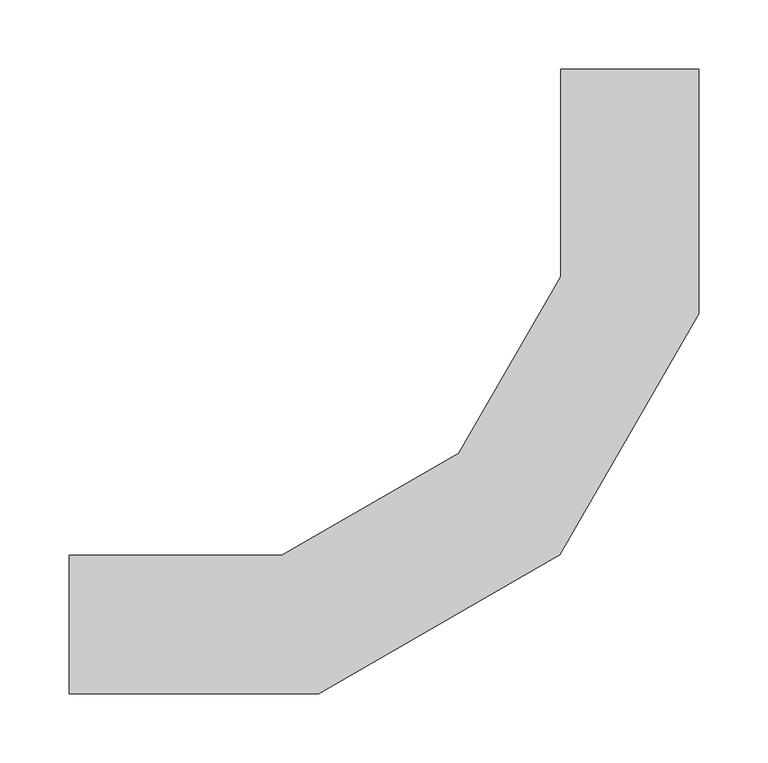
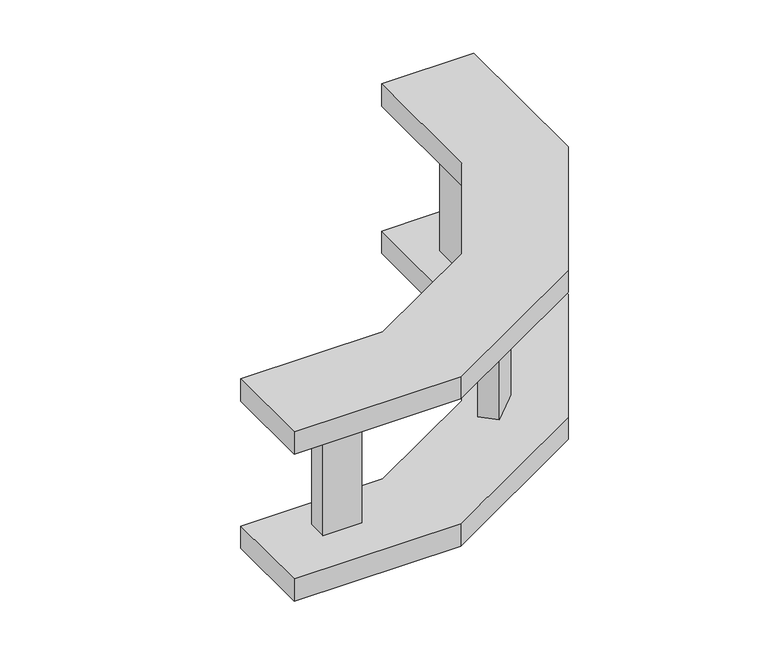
"""IFC4 building model written with IfcOpenShell, lengths in millimetres: cable carrier fitting geometry, Legrand_CableLadder_Swifts_Topaz_OutsideRiser-13 : Hot Dip Galvanised (after manufacture)."""

from ifc_helpers import new_model, si_unit, frame, origin, place, context, project, spatial, polyline, outline, extrude, source, transform, mapped, element, save


def cable_carrier_fitting_f09c606a(model_context):
    return source(origin(), model_context, "Body", "SweptSolid", [
        extrude(outline(polyline([(-123.621014, 93.9225292), (-93.9225292, 123.621014), (-79.0732868, 108.7717716), (-108.7717716, 79.0732868), (-123.621014, 93.9225292)])), frame((0.0, 0.0, -71.5), z_axis=(0.0, 0.0, 1.0), x_axis=(1.0, 0.0, 0.0)), (0.0, 0.0, 1.0), 143.0),
        extrude(outline(polyline([(-346.5, 19.0), (-304.5, 19.0), (-304.5, -2.0), (-346.5, -2.0), (-346.5, 19.0)])), frame((0.0, 0.0, -71.5), z_axis=(0.0, 0.0, 1.0), x_axis=(1.0, 0.0, 0.0)), (0.0, 0.0, 1.0), 143.0),
        extrude(outline(polyline([(-19.0, 304.5), (-19.0, 346.5), (2.0, 346.5), (2.0, 304.5), (-19.0, 304.5)])), frame((0.0, 0.0, -71.5), z_axis=(0.0, 0.0, 1.0), x_axis=(1.0, 0.0, 0.0)), (0.0, 0.0, 1.0), 143.0),
        extrude(outline(polyline([(-224.8850782, -50.0), (-405.5, -50.0), (-405.5, 50.0), (-251.6799975, 50.0), (-123.8200025, 123.8200025), (-50.0, 251.6799975), (-50.0, 401.7), (50.0, 401.7), (50.0, 224.8850782), (-50.6149218, 50.6149218), (-224.8850782, -50.0)])), frame((0.0, 0.0, -97.0), z_axis=(0.0, 0.0, 1.0), x_axis=(1.0, 0.0, 0.0)), (0.0, 0.0, 1.0), 25.5),
        extrude(outline(polyline([(-405.5, -50.0), (-405.5, 50.0), (-251.6799975, 50.0), (-123.8200025, 123.8200025), (-50.0, 251.6799975), (-50.0, 401.7), (50.0, 401.7), (50.0, 224.8850782), (-50.6149218, 50.6149218), (-224.8850782, -50.0), (-405.5, -50.0)])), frame((0.0, 0.0, 71.5), z_axis=(0.0, 0.0, 1.0), x_axis=(1.0, 0.0, 0.0)), (0.0, 0.0, 1.0), 25.5),
    ])


if __name__ == "__main__":
    model = new_model("IFC4")
    model_context = context("Model", 3, world=origin())
    ifc_project = project(units=[si_unit("LENGTHUNIT", "METRE", prefix="MILLI")], contexts=[model_context])
    site = spatial("IfcSite", under=ifc_project)
    building = spatial("IfcBuilding", under=site)
    placement = place(None, origin())
    cable_carrier_fitting_shape = cable_carrier_fitting_f09c606a(model_context)
    element("IfcCableCarrierFitting", 1, ObjectType="Legrand_CableLadder_Swifts_Topaz_OutsideRiser-13 : Hot Dip Galvanised (after manufacture)", at=placement, inside=building, context=model_context, shape_type="MappedRepresentation", body=[
        mapped(cable_carrier_fitting_shape, transform((0.0, 0.0, 0.0), x_axis=(1.0, 0.0, 0.0), y_axis=(0.0, 1.0, 0.0), z_axis=(0.0, 0.0, 1.0))),
    ])
    save(model, "model.ifc")
